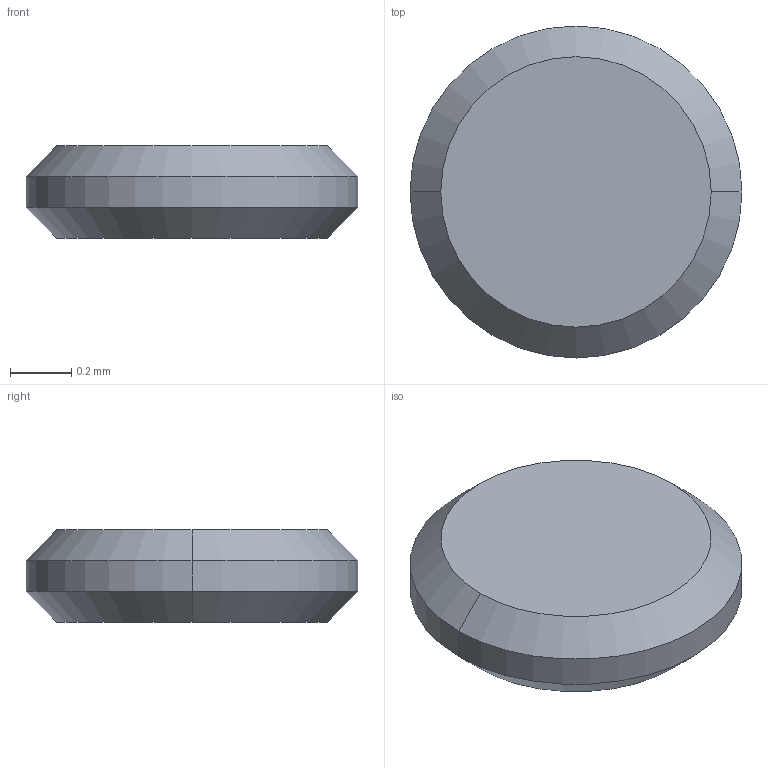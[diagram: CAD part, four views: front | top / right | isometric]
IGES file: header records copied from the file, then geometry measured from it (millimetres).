
Start section:  PTC IGES file: pad__w___any_prt.igs
Global section: file name: pad__w___any_prt.igs; native system: Pro/ENGINEER by Parametric Technology Corporation; preprocessor: 2006170; author: GRA; organization: Unknown; date: 20080630.105205; units: millimetre
Bounding box: 1.08 x 1.08 x 0.3 mm (x, y, z)
Surface area: 2.4 mm2 (no closed solid volume)
Topology: 0 solids, 0 shells, 8 faces, 28 edges, 28 vertices
Faces by surface type: revolution 6, bspline 2
